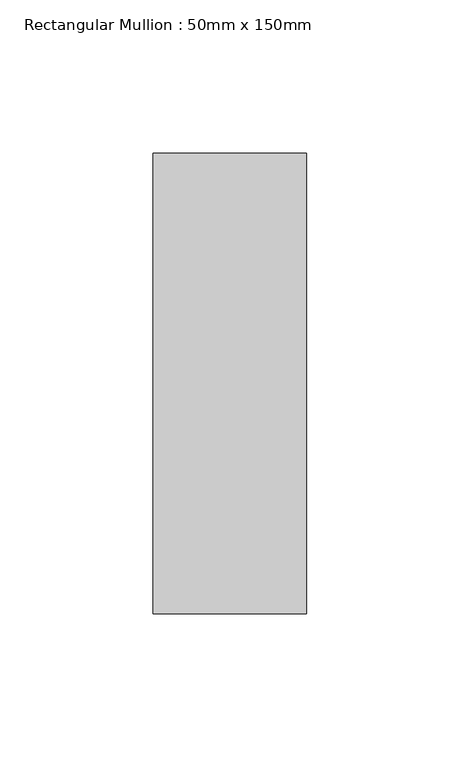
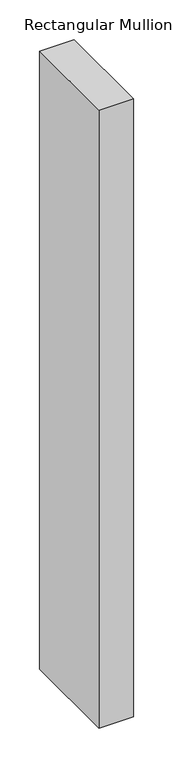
"""IFC4 building model written with IfcOpenShell, lengths in millimetres: member geometry, Rectangular Mullion : 50mm x 150mm."""

import ifcopenshell
import ifcopenshell.guid

model = None  # the IFC model being written
_history = None  # IfcOwnerHistory: only IFC2X3 demands one
_inside = {}  # id of a spatial element -> (the spatial element, [elements in it])
_under = {}  # id of a project, library or spatial element -> (it, [spatial elements below it])
_declared = {}  # id of a project -> (the project, [libraries it declares])
_typed = {}  # id of a type object -> (the type object, [elements of that type])
_made_of = {}  # id of a material, layer set ... -> (it, [elements and type objects made of it])


def new_model(schema):
    """Start an empty IFC model of exactly this schema.

    Asked for "IFC4X3", IfcOpenShell would pick the latest addendum, in which some entities
    have other attributes; the version numbers below select the first issue.
    IFC2X3 requires an IfcOwnerHistory on every rooted entity: one is made here for all.
    """
    global model, _history
    if schema == "IFC4X3":
        model = ifcopenshell.file(schema_version=(4, 3, 0, 0))
    else:
        model = ifcopenshell.file(schema=schema)
    _inside.clear()
    _under.clear()
    _declared.clear()
    _typed.clear()
    _made_of.clear()
    _history = None
    if model.schema == "IFC2X3":
        org = make("IfcOrganization", Name="unknown")
        user = make(
            "IfcPersonAndOrganization",
            ThePerson=make("IfcPerson", FamilyName="unknown"),
            TheOrganization=org,
        )
        app = make(
            "IfcApplication",
            ApplicationDeveloper=org,
            Version="unknown",
            ApplicationFullName="unknown",
            ApplicationIdentifier="unknown",
        )
        _history = make(
            "IfcOwnerHistory",
            OwningUser=user,
            OwningApplication=app,
            ChangeAction="ADDED",
            CreationDate=0,
        )
    return model


def make(cls, **values):
    """One entity of the class cls with the attributes given. An attribute that is None is left unset."""
    return model.create_entity(
        cls, **{name: value for name, value in values.items() if value is not None}
    )


def rooted(cls, **values):
    """An entity with a GlobalId (a new one), such as an element, a storey or a relation."""
    return make(cls, GlobalId=ifcopenshell.guid.new(), OwnerHistory=_history, **values)


def si_unit(unit_type, name, prefix=None):
    """IfcSIUnit, for example si_unit("LENGTHUNIT", "METRE", prefix="MILLI")."""
    return make("IfcSIUnit", UnitType=unit_type, Prefix=prefix, Name=name)


def assignment(units):
    """IfcUnitAssignment: the units of a project."""
    return None if units is None else make("IfcUnitAssignment", Units=units)


def point(xyz):
    """IfcCartesianPoint."""
    return None if xyz is None else make("IfcCartesianPoint", Coordinates=xyz)


def direction(xyz):
    """IfcDirection."""
    return None if xyz is None else make("IfcDirection", DirectionRatios=xyz)


def frame(location, z_axis=None, x_axis=None):
    """IfcAxis2Placement3D, a coordinate frame: its origin and axes. An axis left out is left unset."""
    return make(
        "IfcAxis2Placement3D",
        Location=point(location),
        Axis=direction(z_axis),
        RefDirection=direction(x_axis),
    )


def origin():
    """The frame at (0, 0, 0) with its axes left unset."""
    return frame((0.0, 0.0, 0.0))


def place(relative_to, where):
    """IfcLocalPlacement: puts the frame where relative to a parent placement (None: the world)."""
    return make(
        "IfcLocalPlacement", PlacementRelTo=relative_to, RelativePlacement=where
    )


def context(
    kind, dimensions, precision=None, world=None, true_north=None, identifier=None
):
    """IfcGeometricRepresentationContext, for example the 3D "Model" context."""
    return make(
        "IfcGeometricRepresentationContext",
        ContextIdentifier=identifier,
        ContextType=kind,
        CoordinateSpaceDimension=dimensions,
        Precision=precision,
        WorldCoordinateSystem=world,
        TrueNorth=true_north,
    )


def project(units=None, contexts=None):
    """IfcProject with its units and contexts."""
    return rooted(
        "IfcProject",
        Name="project",
        RepresentationContexts=contexts,
        UnitsInContext=assignment(units),
    )


def spatial(cls, under=None, at=None, **own):
    """A site, building, storey or space (cls), placed at a placement, below another one or the project."""
    s = rooted(cls, ObjectPlacement=at, **own)
    if under is not None:
        _under.setdefault(under.id(), (under, []))[1].append(s)
    return s


def polyline(points):
    """IfcPolyline through the points."""
    return make("IfcPolyline", Points=[point(p) for p in points])


def outline(outer, holes=None, kind="AREA"):
    """IfcArbitraryClosedProfileDef: a profile drawn as a closed curve; with holes, ...WithVoids."""
    if holes is None:
        return make("IfcArbitraryClosedProfileDef", ProfileType=kind, OuterCurve=outer)
    return make(
        "IfcArbitraryProfileDefWithVoids",
        ProfileType=kind,
        OuterCurve=outer,
        InnerCurves=holes,
    )


def extrude(swept, where, along, depth):
    """IfcExtrudedAreaSolid: the profile swept, set in the frame where, extruded along a direction by depth."""
    return make(
        "IfcExtrudedAreaSolid",
        SweptArea=swept,
        Position=where,
        ExtrudedDirection=direction(along),
        Depth=depth,
    )


def shape(context_of_items, identifier, shape_type, items):
    """IfcShapeRepresentation: the items that make up one representation, for example the "Body"."""
    return make(
        "IfcShapeRepresentation",
        ContextOfItems=context_of_items,
        RepresentationIdentifier=identifier,
        RepresentationType=shape_type,
        Items=items,
    )


def source(mapping_origin, context_of_items, identifier, shape_type, items):
    """IfcRepresentationMap: a shape defined once, which mapped items show again and again."""
    return make(
        "IfcRepresentationMap",
        MappingOrigin=mapping_origin,
        MappedRepresentation=shape(context_of_items, identifier, shape_type, items),
    )


def transform(
    local_origin,
    x_axis=None,
    y_axis=None,
    z_axis=None,
    scale=None,
    scale2=None,
    scale3=None,
    uniform=True,
):
    """IfcCartesianTransformationOperator3D, or its non-uniform kind. x_axis, y_axis, z_axis: its Axis1, 2, 3."""
    if uniform:
        return make(
            "IfcCartesianTransformationOperator3D",
            Axis1=direction(x_axis),
            Axis2=direction(y_axis),
            LocalOrigin=point(local_origin),
            Scale=scale,
            Axis3=direction(z_axis),
        )
    return make(
        "IfcCartesianTransformationOperator3DnonUniform",
        Axis1=direction(x_axis),
        Axis2=direction(y_axis),
        LocalOrigin=point(local_origin),
        Scale=scale,
        Axis3=direction(z_axis),
        Scale2=scale2,
        Scale3=scale3,
    )


def mapped(mapping_source, mapping_target):
    """IfcMappedItem: shows the shape of a source again, moved by a transform."""
    return make(
        "IfcMappedItem", MappingSource=mapping_source, MappingTarget=mapping_target
    )


def made_of(thing, what):
    """Note that an element or type object is made of a material, layer set ...; save() writes the relation."""
    if what is not None:
        _made_of.setdefault(what.id(), (what, []))[1].append(thing)
    return thing


def element(
    cls,
    number,
    at=None,
    inside=None,
    cuts=None,
    type_object=None,
    material=None,
    context=None,
    identifier="Body",
    shape_type=None,
    held_by="IfcProductDefinitionShape",
    body=None,
    shapes=None,
    **own,
):
    """One element of the class cls, such as IfcWall. Its Tag is "e" and its number.

    at: its placement. inside: the storey or other place that contains it. cuts: it is an
    opening in that element (IfcRelVoidsElement). A single representation is given by context,
    identifier, shape_type and body (its items); several are given by shapes. held_by: the class
    of the entity that holds the representations. save() writes the other relations.
    """
    e = rooted(cls, Tag="e%d" % number, ObjectPlacement=at, **own)
    if body is not None:
        shapes = [shape(context, identifier, shape_type, body)]
    if shapes is not None:
        e.Representation = make(held_by, Representations=shapes)
    if inside is not None:
        _inside.setdefault(inside.id(), (inside, []))[1].append(e)
    if cuts is not None:
        rooted(
            "IfcRelVoidsElement", RelatingBuildingElement=cuts, RelatedOpeningElement=e
        )
    if type_object is not None:
        _typed.setdefault(type_object.id(), (type_object, []))[1].append(e)
    return made_of(e, material)


def aggregate(whole, parts):
    """IfcRelAggregates: a whole, such as a stair, and the parts it consists of."""
    return rooted("IfcRelAggregates", RelatingObject=whole, RelatedObjects=parts)


def save(model, path):
    """Write the relations noted so far, then the file.

    IfcRelAggregates (storeys below a building ...), IfcRelContainedInSpatialStructure (elements
    in a storey), IfcRelDefinesByType, IfcRelAssociatesMaterial and IfcRelDeclares: one each for
    every whole, place, type object, material and project.
    """
    for whole, parts in _under.values():
        aggregate(whole, parts)
    for where, things in _inside.values():
        rooted(
            "IfcRelContainedInSpatialStructure",
            RelatedElements=things,
            RelatingStructure=where,
        )
    for kind, things in _typed.values():
        rooted("IfcRelDefinesByType", RelatedObjects=things, RelatingType=kind)
    for what, things in _made_of.values():
        rooted("IfcRelAssociatesMaterial", RelatedObjects=things, RelatingMaterial=what)
    for by, libraries in _declared.values():
        rooted("IfcRelDeclares", RelatingContext=by, RelatedDefinitions=libraries)
    model.write(path)


def rectangular_mullion_50mm_x_150mm_a053b0ca(model_context):
    return source(origin(), model_context, "Body", "SweptSolid", [
        extrude(outline(polyline([(25.0, 75.0), (25.0, -75.0), (-25.0, -75.0), (-25.0, 75.0), (25.0, 75.0)])), frame((0.0, 0.0, -950.0), z_axis=(0.0, 0.0, 1.0), x_axis=(1.0, 0.0, 0.0)), (0.0, 0.0, 1.0), 950.0),
    ])


if __name__ == "__main__":
    model = new_model("IFC4")
    model_context = context("Model", 3, world=origin())
    ifc_project = project(units=[si_unit("LENGTHUNIT", "METRE", prefix="MILLI")], contexts=[model_context])
    site = spatial("IfcSite", under=ifc_project)
    building = spatial("IfcBuilding", under=site)
    placement = place(None, origin())
    rectangular_mullion_50mm_x_150mm_shape = rectangular_mullion_50mm_x_150mm_a053b0ca(model_context)
    element("IfcMember", 1, ObjectType="Rectangular Mullion : 50mm x 150mm", at=placement, inside=building, context=model_context, shape_type="MappedRepresentation", body=[
        mapped(rectangular_mullion_50mm_x_150mm_shape, transform((0.0, 0.0, 0.0), x_axis=(1.0, 0.0, 0.0), y_axis=(0.0, 1.0, 0.0), z_axis=(0.0, 0.0, 1.0))),
    ])
    save(model, "model.ifc")
